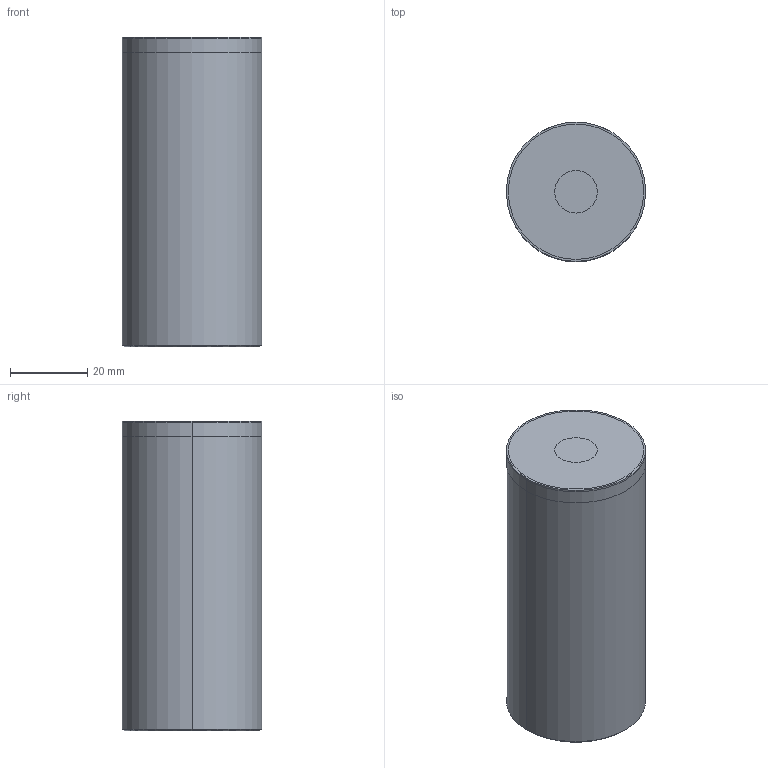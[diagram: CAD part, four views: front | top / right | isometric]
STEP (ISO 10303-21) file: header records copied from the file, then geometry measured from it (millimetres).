
FILE_DESCRIPTION (( 'STEP AP214' ), '1' );
FILE_NAME ('BruyRubio_BRSP_36_X_80.STEP', '2020-01-15T09:35:45', ( '' ), ( '' ), 'SwSTEP 2.0', 'SolidWorks 2017', '' );
FILE_SCHEMA (( 'AUTOMOTIVE_DESIGN' ));
Length unit declared in the file: millimetre
Products named in the file (3): BruyRubio_BRSP_36_X_80; BRSP 36 X 80_0521ac; Einbauraum_705ac8
Assembly tree (2 placements, depth 2):
  BruyRubio_BRSP_36_X_80
    Einbauraum_705ac8
    BRSP 36 X 80_0521ac
Bounding box: 36 x 36 x 80.08 mm (x, y, z)
Volume: 76073.2 mm3; surface area: 16323.2 mm2
Topology: 2 solids, 2 shells, 17 faces, 32 edges, 20 vertices
Faces by surface type: cylinder 8, plane 5, cone 4
Entity records: 735 total; most frequent: DIRECTION 96, CARTESIAN_POINT 74, ORIENTED_EDGE 64, AXIS2_PLACEMENT_3D 42, EDGE_CURVE 32, UNCERTAINTY_MEASURE_WITH_UNIT 24, SURFACE_STYLE_USAGE 21, FILL_AREA_STYLE_COLOUR 21
